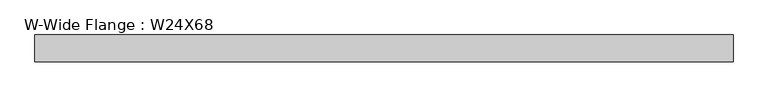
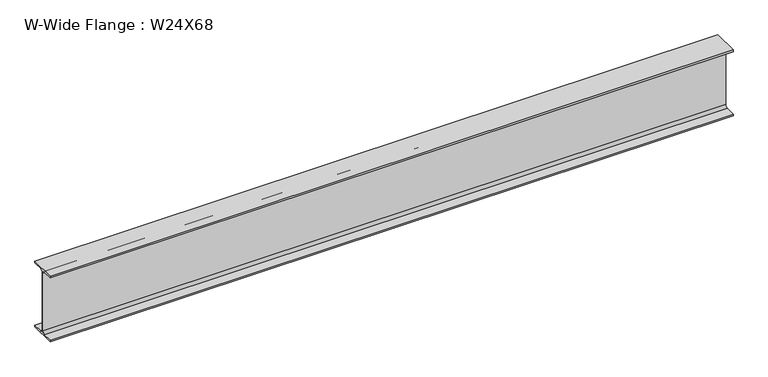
"""IFC4 building model written with IfcOpenShell, lengths in millimetres: beam geometry, W-Wide Flange : W24X68."""

from ifc_helpers import new_model, si_unit, point, frame, frame_2d, origin, place, context, project, spatial, polyline, circle_curve, trimmed, segment, composite_curve, outline, extrude, source, transform, mapped, element, save


def w_wide_flange_w24x68_2c67142f(model_context):
    return source(origin(), model_context, "Body", "SweptSolid", [
        extrude(outline(composite_curve([segment(polyline([(113.919, -286.131), (113.919, -300.99), (-113.919, -300.99), (-113.919, -286.131), (-28.5115, -286.131)]), True, "CONTINUOUS"), segment(trimmed(circle_curve(frame_2d((-28.5115, -262.89)), 23.241), [point((-28.5115, -286.131))], [point((-5.2705, -262.89))], True, "CARTESIAN"), True, "CONTINUOUS"), segment(polyline([(-5.2705, -262.89), (-5.2705, 262.89)]), True, "CONTINUOUS"), segment(trimmed(circle_curve(frame_2d((-28.5115, 262.89)), 23.241), [point((-5.2705, 262.89))], [point((-28.5115, 286.131))], True, "CARTESIAN"), True, "CONTINUOUS"), segment(polyline([(-28.5115, 286.131), (-113.919, 286.131), (-113.919, 300.99), (113.919, 300.99), (113.919, 286.131), (28.5115, 286.131)]), True, "CONTINUOUS"), segment(trimmed(circle_curve(frame_2d((28.5115, 262.89)), 23.241), [point((28.5115, 286.131))], [point((5.2705, 262.89))], True, "CARTESIAN"), True, "CONTINUOUS"), segment(polyline([(5.2705, 262.89), (5.2705, -262.89)]), True, "CONTINUOUS"), segment(trimmed(circle_curve(frame_2d((28.5115, -262.89)), 23.241), [point((5.2705, -262.89))], [point((28.5115, -286.131))], True, "CARTESIAN"), True, "CONTINUOUS"), segment(polyline([(28.5115, -286.131), (113.919, -286.131)]), True, "CONTINUOUS")], self_intersect=False)), frame((-2904.33125, 0.0, 0.0), z_axis=(1.0, 0.0, 0.0), x_axis=(0.0, 1.0, 0.0)), (0.0, 0.0, 1.0), 5918.2),
    ])


if __name__ == "__main__":
    model = new_model("IFC4")
    model_context = context("Model", 3, world=origin())
    ifc_project = project(units=[si_unit("LENGTHUNIT", "METRE", prefix="MILLI")], contexts=[model_context])
    site = spatial("IfcSite", under=ifc_project)
    building = spatial("IfcBuilding", under=site)
    placement = place(None, origin())
    w_wide_flange_w24x68_shape = w_wide_flange_w24x68_2c67142f(model_context)
    element("IfcBeam", 1, ObjectType="W-Wide Flange : W24X68", at=placement, inside=building, context=model_context, shape_type="MappedRepresentation", body=[
        mapped(w_wide_flange_w24x68_shape, transform((0.0, 0.0, 0.0), x_axis=(1.0, 0.0, 0.0), y_axis=(0.0, 1.0, 0.0), z_axis=(0.0, 0.0, 1.0))),
    ])
    save(model, "model.ifc")
